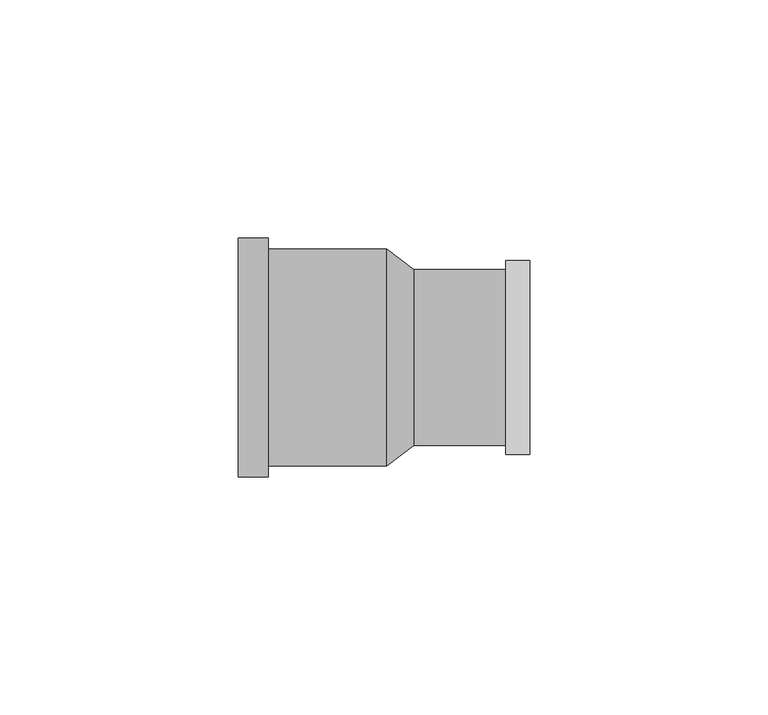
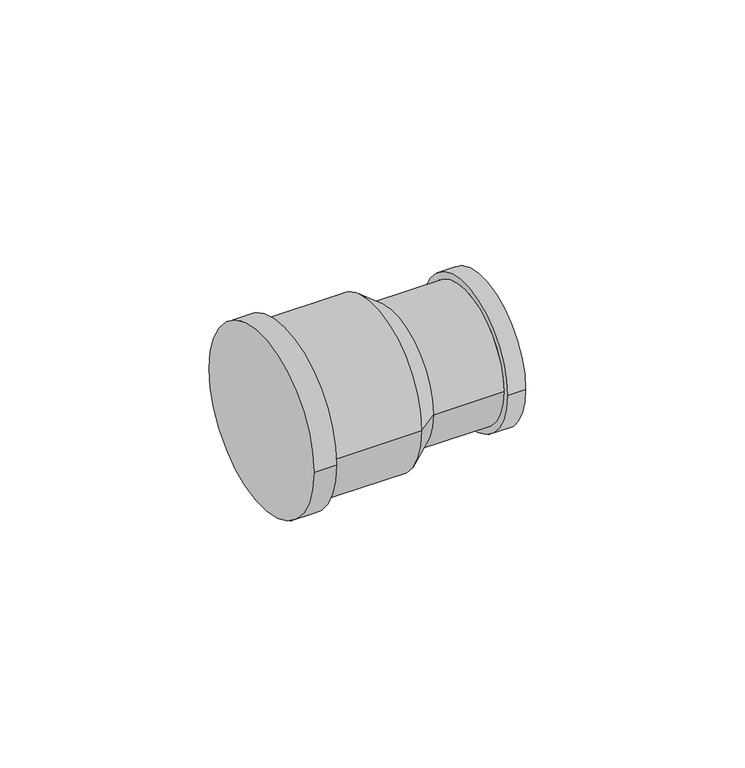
"""IFC4 building model written with IfcOpenShell, lengths in millimetres: pipe fitting geometry, Redutor de acoplamento - PVC - CW : Padrão."""

import ifcopenshell
import ifcopenshell.guid

model = None  # the IFC model being written
_history = None  # IfcOwnerHistory: only IFC2X3 demands one
_inside = {}  # id of a spatial element -> (the spatial element, [elements in it])
_under = {}  # id of a project, library or spatial element -> (it, [spatial elements below it])
_declared = {}  # id of a project -> (the project, [libraries it declares])
_typed = {}  # id of a type object -> (the type object, [elements of that type])
_made_of = {}  # id of a material, layer set ... -> (it, [elements and type objects made of it])


def new_model(schema):
    """Start an empty IFC model of exactly this schema.

    Asked for "IFC4X3", IfcOpenShell would pick the latest addendum, in which some entities
    have other attributes; the version numbers below select the first issue.
    IFC2X3 requires an IfcOwnerHistory on every rooted entity: one is made here for all.
    """
    global model, _history
    if schema == "IFC4X3":
        model = ifcopenshell.file(schema_version=(4, 3, 0, 0))
    else:
        model = ifcopenshell.file(schema=schema)
    _inside.clear()
    _under.clear()
    _declared.clear()
    _typed.clear()
    _made_of.clear()
    _history = None
    if model.schema == "IFC2X3":
        org = make("IfcOrganization", Name="unknown")
        user = make(
            "IfcPersonAndOrganization",
            ThePerson=make("IfcPerson", FamilyName="unknown"),
            TheOrganization=org,
        )
        app = make(
            "IfcApplication",
            ApplicationDeveloper=org,
            Version="unknown",
            ApplicationFullName="unknown",
            ApplicationIdentifier="unknown",
        )
        _history = make(
            "IfcOwnerHistory",
            OwningUser=user,
            OwningApplication=app,
            ChangeAction="ADDED",
            CreationDate=0,
        )
    return model


def make(cls, **values):
    """One entity of the class cls with the attributes given. An attribute that is None is left unset."""
    return model.create_entity(
        cls, **{name: value for name, value in values.items() if value is not None}
    )


def rooted(cls, **values):
    """An entity with a GlobalId (a new one), such as an element, a storey or a relation."""
    return make(cls, GlobalId=ifcopenshell.guid.new(), OwnerHistory=_history, **values)


def si_unit(unit_type, name, prefix=None):
    """IfcSIUnit, for example si_unit("LENGTHUNIT", "METRE", prefix="MILLI")."""
    return make("IfcSIUnit", UnitType=unit_type, Prefix=prefix, Name=name)


def assignment(units):
    """IfcUnitAssignment: the units of a project."""
    return None if units is None else make("IfcUnitAssignment", Units=units)


def point(xyz):
    """IfcCartesianPoint."""
    return None if xyz is None else make("IfcCartesianPoint", Coordinates=xyz)


def direction(xyz):
    """IfcDirection."""
    return None if xyz is None else make("IfcDirection", DirectionRatios=xyz)


def frame(location, z_axis=None, x_axis=None):
    """IfcAxis2Placement3D, a coordinate frame: its origin and axes. An axis left out is left unset."""
    return make(
        "IfcAxis2Placement3D",
        Location=point(location),
        Axis=direction(z_axis),
        RefDirection=direction(x_axis),
    )


def origin():
    """The frame at (0, 0, 0) with its axes left unset."""
    return frame((0.0, 0.0, 0.0))


def place(relative_to, where):
    """IfcLocalPlacement: puts the frame where relative to a parent placement (None: the world)."""
    return make(
        "IfcLocalPlacement", PlacementRelTo=relative_to, RelativePlacement=where
    )


def context(
    kind, dimensions, precision=None, world=None, true_north=None, identifier=None
):
    """IfcGeometricRepresentationContext, for example the 3D "Model" context."""
    return make(
        "IfcGeometricRepresentationContext",
        ContextIdentifier=identifier,
        ContextType=kind,
        CoordinateSpaceDimension=dimensions,
        Precision=precision,
        WorldCoordinateSystem=world,
        TrueNorth=true_north,
    )


def project(units=None, contexts=None):
    """IfcProject with its units and contexts."""
    return rooted(
        "IfcProject",
        Name="project",
        RepresentationContexts=contexts,
        UnitsInContext=assignment(units),
    )


def spatial(cls, under=None, at=None, **own):
    """A site, building, storey or space (cls), placed at a placement, below another one or the project."""
    s = rooted(cls, ObjectPlacement=at, **own)
    if under is not None:
        _under.setdefault(under.id(), (under, []))[1].append(s)
    return s


def polyline(points):
    """IfcPolyline through the points."""
    return make("IfcPolyline", Points=[point(p) for p in points])


def circle_curve(where, radius):
    """IfcCircle in the frame where."""
    return make("IfcCircle", Position=where, Radius=radius)


def shape(context_of_items, identifier, shape_type, items):
    """IfcShapeRepresentation: the items that make up one representation, for example the "Body"."""
    return make(
        "IfcShapeRepresentation",
        ContextOfItems=context_of_items,
        RepresentationIdentifier=identifier,
        RepresentationType=shape_type,
        Items=items,
    )


def source(mapping_origin, context_of_items, identifier, shape_type, items):
    """IfcRepresentationMap: a shape defined once, which mapped items show again and again."""
    return make(
        "IfcRepresentationMap",
        MappingOrigin=mapping_origin,
        MappedRepresentation=shape(context_of_items, identifier, shape_type, items),
    )


def transform(
    local_origin,
    x_axis=None,
    y_axis=None,
    z_axis=None,
    scale=None,
    scale2=None,
    scale3=None,
    uniform=True,
):
    """IfcCartesianTransformationOperator3D, or its non-uniform kind. x_axis, y_axis, z_axis: its Axis1, 2, 3."""
    if uniform:
        return make(
            "IfcCartesianTransformationOperator3D",
            Axis1=direction(x_axis),
            Axis2=direction(y_axis),
            LocalOrigin=point(local_origin),
            Scale=scale,
            Axis3=direction(z_axis),
        )
    return make(
        "IfcCartesianTransformationOperator3DnonUniform",
        Axis1=direction(x_axis),
        Axis2=direction(y_axis),
        LocalOrigin=point(local_origin),
        Scale=scale,
        Axis3=direction(z_axis),
        Scale2=scale2,
        Scale3=scale3,
    )


def mapped(mapping_source, mapping_target):
    """IfcMappedItem: shows the shape of a source again, moved by a transform."""
    return make(
        "IfcMappedItem", MappingSource=mapping_source, MappingTarget=mapping_target
    )


def made_of(thing, what):
    """Note that an element or type object is made of a material, layer set ...; save() writes the relation."""
    if what is not None:
        _made_of.setdefault(what.id(), (what, []))[1].append(thing)
    return thing


def element(
    cls,
    number,
    at=None,
    inside=None,
    cuts=None,
    type_object=None,
    material=None,
    context=None,
    identifier="Body",
    shape_type=None,
    held_by="IfcProductDefinitionShape",
    body=None,
    shapes=None,
    **own,
):
    """One element of the class cls, such as IfcWall. Its Tag is "e" and its number.

    at: its placement. inside: the storey or other place that contains it. cuts: it is an
    opening in that element (IfcRelVoidsElement). A single representation is given by context,
    identifier, shape_type and body (its items); several are given by shapes. held_by: the class
    of the entity that holds the representations. save() writes the other relations.
    """
    e = rooted(cls, Tag="e%d" % number, ObjectPlacement=at, **own)
    if body is not None:
        shapes = [shape(context, identifier, shape_type, body)]
    if shapes is not None:
        e.Representation = make(held_by, Representations=shapes)
    if inside is not None:
        _inside.setdefault(inside.id(), (inside, []))[1].append(e)
    if cuts is not None:
        rooted(
            "IfcRelVoidsElement", RelatingBuildingElement=cuts, RelatedOpeningElement=e
        )
    if type_object is not None:
        _typed.setdefault(type_object.id(), (type_object, []))[1].append(e)
    return made_of(e, material)


def aggregate(whole, parts):
    """IfcRelAggregates: a whole, such as a stair, and the parts it consists of."""
    return rooted("IfcRelAggregates", RelatingObject=whole, RelatedObjects=parts)


def save(model, path):
    """Write the relations noted so far, then the file.

    IfcRelAggregates (storeys below a building ...), IfcRelContainedInSpatialStructure (elements
    in a storey), IfcRelDefinesByType, IfcRelAssociatesMaterial and IfcRelDeclares: one each for
    every whole, place, type object, material and project.
    """
    for whole, parts in _under.values():
        aggregate(whole, parts)
    for where, things in _inside.values():
        rooted(
            "IfcRelContainedInSpatialStructure",
            RelatedElements=things,
            RelatingStructure=where,
        )
    for kind, things in _typed.values():
        rooted("IfcRelDefinesByType", RelatedObjects=things, RelatingType=kind)
    for what, things in _made_of.values():
        rooted("IfcRelAssociatesMaterial", RelatedObjects=things, RelatingMaterial=what)
    for by, libraries in _declared.values():
        rooted("IfcRelDeclares", RelatingContext=by, RelatedDefinitions=libraries)
    model.write(path)


def plane_surface(at):
    """IfcPlane: the flat surface through the origin of the frame at, square to its z axis."""
    return make("IfcPlane", Position=at)


def cylinder_surface(at, radius):
    """IfcCylindricalSurface: all points at the distance radius from the z axis of the frame at."""
    return make("IfcCylindricalSurface", Position=at, Radius=radius)


def revolved_surface(curve, axis_point, axis_direction):
    """IfcSurfaceOfRevolution: the curve turned about the line through axis_point along axis_direction."""
    return make(
        "IfcSurfaceOfRevolution",
        SweptCurve=make("IfcArbitraryOpenProfileDef", ProfileType="CURVE", Curve=curve),
        AxisPosition=make("IfcAxis1Placement", Location=point(axis_point), Axis=direction(axis_direction)),
    )


def advanced_brep(points, edges, surfaces, faces):
    """IfcAdvancedBrep: a solid bounded by faces that lie on surfaces and meet in shared edges.

    An edge is (start, end): straight between two places in points (the first is 0);
    or (start, end, curve); or (start, end, curve, False) where it runs against its curve.
    A face is (place in surfaces, loops), or (place, loops, False) where it looks against
    its surface's normal. A loop lists edges by number (the first is 1), with a minus sign
    where the edge is run from its end to its start. The first loop is the outer one.
    """
    corners = [point(p) for p in points]
    vertices = [make("IfcVertexPoint", VertexGeometry=c) for c in corners]
    made = []
    for start, end, *more in edges:
        made.append(
            make(
                "IfcEdgeCurve",
                EdgeStart=vertices[start],
                EdgeEnd=vertices[end],
                EdgeGeometry=more[0] if more else make("IfcPolyline", Points=[corners[start], corners[end]]),
                SameSense=more[1] if len(more) > 1 else True,
            )
        )
    hull = []
    for where, loops, *sense in faces:
        bounds = []
        for j, loop in enumerate(loops):
            ring = [make("IfcOrientedEdge", EdgeElement=made[abs(k) - 1], Orientation=k > 0) for k in loop]
            bounds.append(
                make(
                    "IfcFaceOuterBound" if j == 0 else "IfcFaceBound",
                    Bound=make("IfcEdgeLoop", EdgeList=ring),
                    Orientation=True,
                )
            )
        hull.append(make("IfcAdvancedFace", Bounds=bounds, FaceSurface=surfaces[where], SameSense=sense[0] if sense else True))
    return make("IfcAdvancedBrep", Outer=make("IfcClosedShell", CfsFaces=hull))


def pipe_fitting_853bb782(model_context):
    return source(origin(), model_context, "Body", "AdvancedBrep", [
        advanced_brep(
        [(31.2, 22.8, 0.0), (36.8, 18.5, 0.0), (36.8, -18.5, 0.0), (31.2, -22.8, 0.0), (0.0, -25.08, 0.0), (0.0, 25.08, 0.0), (6.3, -22.8, 0.0), (6.3, 22.8, 0.0), (6.3, -25.08, 0.0), (6.3, 25.08, 0.0), (61.2, 20.35, 0.0), (61.2, -20.35, 0.0), (56.2, -18.5, 0.0), (56.2, 18.5, 0.0), (56.2, 20.35, 0.0), (56.2, -20.35, 0.0)],
        [
            (0, 1),
            (1, 2, circle_curve(frame((36.8, 0.0, 0.0), z_axis=(-1.0, 0.0, 0.0), x_axis=(0.0, -1.0, 0.0)), 18.5)),
            (2, 3),
            (3, 0, circle_curve(frame((31.2, 0.0, 0.0), z_axis=(1.0, 0.0, 0.0), x_axis=(0.0, -1.0, 0.0)), 22.8)),
            (0, 3, circle_curve(frame((31.2, 0.0, 0.0), z_axis=(1.0, 0.0, 0.0), x_axis=(0.0, 1.0, 0.0)), 22.8)),
            (2, 1, circle_curve(frame((36.8, 0.0, 0.0), z_axis=(-1.0, 0.0, 0.0), x_axis=(0.0, 1.0, 0.0)), 18.5)),
            (4, 5, circle_curve(frame((0.0, 0.0, 0.0), z_axis=(-1.0, 0.0, 0.0), x_axis=(0.0, 1.0, 0.0)), 25.08)),
            (5, 4, circle_curve(frame((0.0, 0.0, 0.0), z_axis=(-1.0, 0.0, 0.0), x_axis=(0.0, 1.0, 0.0)), 25.08)),
            (6, 3),
            (0, 7),
            (7, 6, circle_curve(frame((6.3, 0.0, 0.0), z_axis=(1.0, 0.0, 0.0), x_axis=(0.0, 1.0, 0.0)), 22.8)),
            (6, 7, circle_curve(frame((6.3, 0.0, 0.0), z_axis=(1.0, 0.0, 0.0), x_axis=(0.0, 1.0, 0.0)), 22.8)),
            (8, 9, circle_curve(frame((6.3, 0.0, 0.0), z_axis=(1.0, 0.0, 0.0), x_axis=(0.0, 1.0, 0.0)), 25.08)),
            (9, 8, circle_curve(frame((6.3, 0.0, 0.0), z_axis=(1.0, 0.0, 0.0), x_axis=(0.0, 1.0, 0.0)), 25.08)),
            (4, 8),
            (9, 5),
            (10, 11, circle_curve(frame((61.2, 0.0, 0.0), z_axis=(1.0, 0.0, 0.0), x_axis=(0.0, -1.0, 0.0)), 20.35)),
            (11, 10, circle_curve(frame((61.2, 0.0, 0.0), z_axis=(1.0, 0.0, 0.0), x_axis=(0.0, -1.0, 0.0)), 20.35)),
            (2, 12),
            (12, 13, circle_curve(frame((56.2, 0.0, 0.0), z_axis=(-1.0, 0.0, 0.0), x_axis=(0.0, 1.0, 0.0)), 18.5)),
            (13, 1),
            (13, 12, circle_curve(frame((56.2, 0.0, 0.0), z_axis=(-1.0, 0.0, 0.0), x_axis=(0.0, 1.0, 0.0)), 18.5)),
            (14, 15, circle_curve(frame((56.2, 0.0, 0.0), z_axis=(-1.0, 0.0, 0.0), x_axis=(0.0, -1.0, 0.0)), 20.35)),
            (15, 14, circle_curve(frame((56.2, 0.0, 0.0), z_axis=(-1.0, 0.0, 0.0), x_axis=(0.0, -1.0, 0.0)), 20.35)),
            (10, 14),
            (15, 11),
        ],
        [
            revolved_surface(polyline([(36.8, 18.50000000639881, 0.0), (31.2, 22.8, 0.0)]), (60.8930233, 0.0, 0.0), (-1.0, 0.0, 0.0)),
            plane_surface(frame((0.0, 0.0, 0.0), z_axis=(-1.0, 0.0, 0.0), x_axis=(0.0, 0.0, 1.0))),
            cylinder_surface(frame((0.0, 0.0, 0.0), z_axis=(-1.0, 0.0, 0.0), x_axis=(0.0, 1.0, 0.0)), 22.8),
            plane_surface(frame((6.3, 0.0, 0.0), z_axis=(1.0, 0.0, 0.0), x_axis=(0.0, 0.0, 1.0))),
            cylinder_surface(frame((0.0, 0.0, 0.0), z_axis=(-1.0, 0.0, 0.0), x_axis=(0.0, 1.0, 0.0)), 25.08),
            plane_surface(frame((61.2, 0.0, 0.0), z_axis=(1.0, 0.0, 0.0), x_axis=(0.0, 0.0, 1.0))),
            cylinder_surface(frame((36.8, 0.0, 0.0), z_axis=(-1.0, 0.0, 0.0), x_axis=(0.0, 1.0, 0.0)), 18.5),
            plane_surface(frame((56.2, 0.0, 0.0), z_axis=(-1.0, 0.0, 0.0), x_axis=(0.0, 0.0, 1.0))),
            cylinder_surface(frame((61.2, 0.0, 0.0), z_axis=(1.0, 0.0, 0.0), x_axis=(0.0, -1.0, 0.0)), 20.35),
        ],
        [
            (0, [[1, 2, 3, 4]]),
            (0, [[-1, 5, -3, 6]]),
            (1, [[7, 8]]),
            (2, [[9, -5, 10, 11]]),
            (2, [[-9, 12, -10, -4]]),
            (3, [[13, 14], [-11, -12]]),
            (4, [[-7, 15, -14, 16]]),
            (4, [[-8, -16, -13, -15]]),
            (5, [[17, 18]]),
            (6, [[19, 20, 21, -6]]),
            (6, [[-19, -2, -21, 22]]),
            (7, [[23, 24], [-20, -22]]),
            (8, [[-17, 25, -24, 26]]),
            (8, [[-18, -26, -23, -25]]),
        ],
    ),
    ])


if __name__ == "__main__":
    model = new_model("IFC4")
    model_context = context("Model", 3, world=origin())
    ifc_project = project(units=[si_unit("LENGTHUNIT", "METRE", prefix="MILLI")], contexts=[model_context])
    site = spatial("IfcSite", under=ifc_project)
    building = spatial("IfcBuilding", under=site)
    placement = place(None, origin())
    pipe_fitting_shape = pipe_fitting_853bb782(model_context)
    element("IfcPipeFitting", 1, ObjectType="Redutor de acoplamento - PVC - CW : Padrão", at=placement, inside=building, context=model_context, shape_type="MappedRepresentation", body=[
        mapped(pipe_fitting_shape, transform((0.0, 0.0, 0.0), x_axis=(1.0, 0.0, 0.0), y_axis=(0.0, 1.0, 0.0), z_axis=(0.0, 0.0, 1.0))),
    ])
    save(model, "model.ifc")
